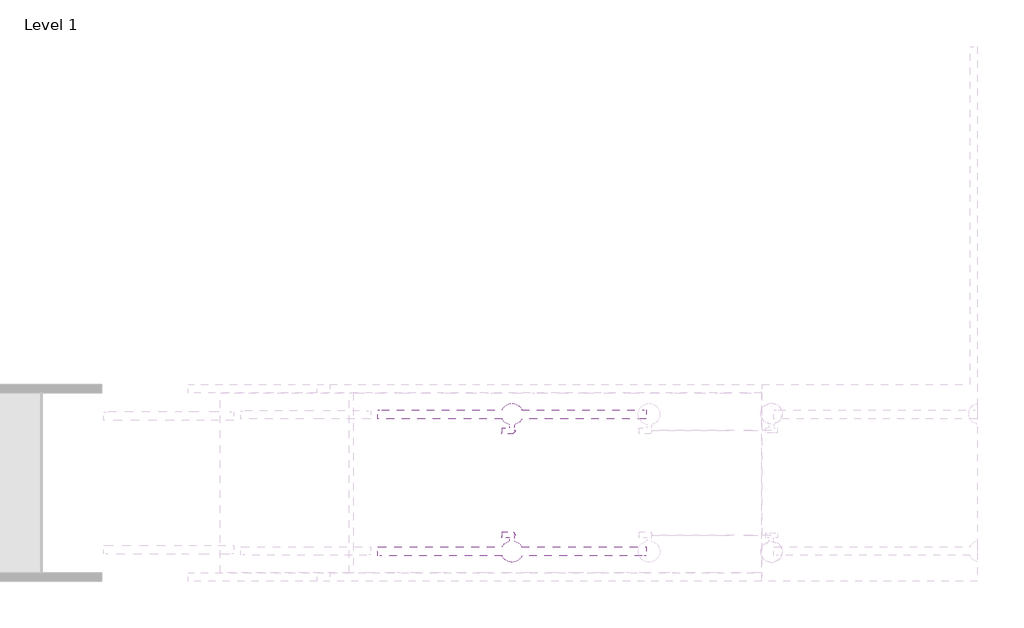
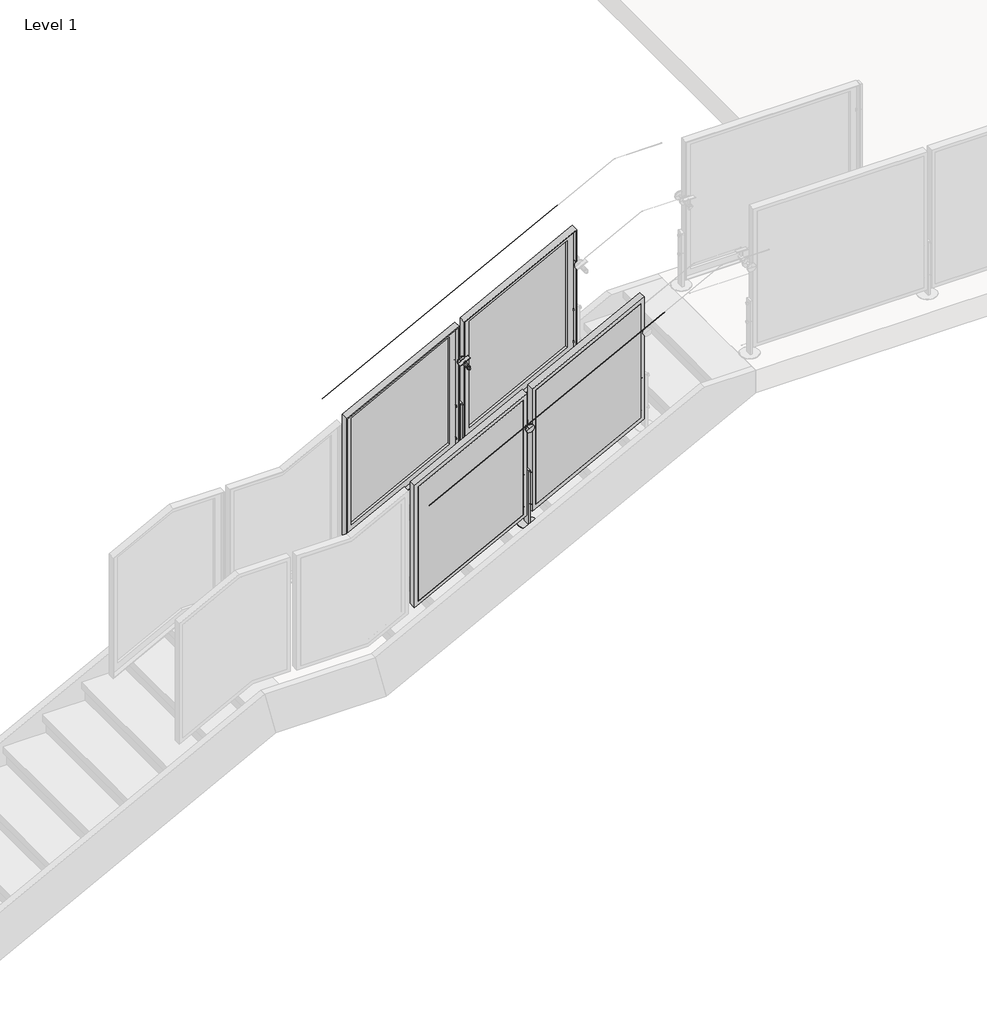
# One storey, part 33 of 37: 2 railings.
"""IFC4 building model written with IfcOpenShell, lengths in millimetres."""

from ifc_helpers import new_model, si_unit, point, frame, frame_2d, origin, place, context, project, spatial, polyline, circle_curve, ellipse_curve, trimmed, segment, composite_curve, outline, extrude, faceted_brep, element, save
from ifc_brep_helpers import plane_surface, cylinder_surface, advanced_brep

model = new_model("IFC4")

# Units and contexts
model_context = context("Model", 3, world=origin())
ifc_project = project(units=[si_unit("LENGTHUNIT", "METRE", prefix="MILLI")], contexts=[model_context])

# Site, building, storey
site = spatial("IfcSite", under=ifc_project)
building = spatial("IfcBuilding", under=site)
storey = spatial("IfcBuildingStorey", under=building, Name="Level 1", Elevation=0.0)

# Railings
placement = place(None, origin())
element("IfcRailing", 1, ObjectType="Metal-Panel-VIVA-FRAME-Top_Core-Stairs-Upper", at=placement, inside=storey, context=model_context, shape_type="SolidModel", body=[
    advanced_brep(
    [(-9833.8159088, 8263.5937722, 2893.6354769), (-9833.8159088, 8264.5937722, 2893.6354769), (-8157.4159088, 8263.5937722, 3764.4926197), (-8157.4159088, 8264.5937722, 3764.4926197)],
    [
        (0, 1, ellipse_curve(frame((-9833.8159088, 8264.0937722, 2893.6354769), z_axis=(-1.0, 0.0, 0.0), x_axis=(0.0, 0.0, -0.9999999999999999)), 0.5634403, 0.5)),
        (1, 0, ellipse_curve(frame((-9833.8159088, 8264.0937722, 2893.6354769), z_axis=(-1.0, 0.0, 0.0), x_axis=(0.0, 0.0, -0.9999999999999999)), 0.5634403, 0.5)),
        (2, 3, ellipse_curve(frame((-8157.4159088, 8264.0937722, 3764.4926197), z_axis=(1.0, 0.0, 0.0), x_axis=(0.0, 0.0, -0.9999999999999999)), 0.5634403, 0.5)),
        (3, 2, ellipse_curve(frame((-8157.4159088, 8264.0937722, 3764.4926197), z_axis=(1.0, 0.0, 0.0), x_axis=(0.0, 0.0, -0.9999999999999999)), 0.5634403, 0.5)),
        (0, 2),
        (3, 1),
    ],
    [
        plane_surface(frame((-9833.8159088, 8264.0937722, 2894.1989172), z_axis=(-1.0, 0.0, 0.0), x_axis=(0.0, 1.0, 0.0))),
        plane_surface(frame((-8157.4159088, 8264.0937722, 3765.0560601), z_axis=(1.0, 0.0, 0.0), x_axis=(0.0, 1.0, 0.0))),
        cylinder_surface(frame((-9833.5854139, 8264.0937722, 2893.7552145), z_axis=(-0.8874054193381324, 0.0, -0.4609898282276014), x_axis=(0.0, 1.0, 0.0)), 0.5),
    ],
    [
        (0, [[1, 2]]),
        (1, [[3, 4]]),
        (2, [[-1, 5, -4, 6]]),
        (2, [[-2, -6, -3, -5]]),
    ],
),
    extrude(outline(polyline([(3321.6485005, -8951.1699519), (2460.8755486, -8951.1699519), (2850.1265024, -8201.8618657), (3710.8994544, -8201.8618657), (3321.6485005, -8951.1699519)])), frame((0.0, 8481.9705722, 0.0), z_axis=(0.0, 1.0, 0.0), x_axis=(0.0, 0.0, 1.0)), (0.0, 0.0, 1.0), 3.0),
    faceted_brep([(-8976.5699519, 8481.9705722, 3337.076464), (-8976.5699519, 8481.9705722, 2419.0579747), (-8176.4618657, 8481.9705722, 2834.6985389), (-8176.4618657, 8481.9705722, 3752.7170282), (-8951.1699519, 8481.9705722, 3321.6485005), (-8201.8618657, 8481.9705722, 3710.8994544), (-8201.8618657, 8481.9705722, 2850.1265024), (-8951.1699519, 8481.9705722, 2460.8755486), (-8201.8618657, 8484.9705722, 2850.1265024), (-8951.1699519, 8484.9705722, 2460.8755486), (-8201.8618657, 8484.9705722, 3710.8994544), (-8951.1699519, 8484.9705722, 3321.6485005), (-8970.5755519, 8535.7705722, 2428.9269221), (-8970.5755519, 8504.9603722, 2428.9269221), (-8182.4562657, 8504.9603722, 2838.3395383), (-8182.4562657, 8535.7705722, 2838.3395383), (-8182.4562657, 8504.9603722, 3742.8480808), (-8182.4562657, 8535.7705722, 3742.8480808), (-8970.5755519, 8535.7705722, 3333.4354646), (-8970.5755519, 8504.9603722, 3333.4354646), (-8176.4618657, 8535.7705722, 2834.6985389), (-8976.5699519, 8535.7705722, 2419.0579747), (-8976.5699519, 8535.7705722, 3337.076464), (-8176.4618657, 8535.7705722, 3752.7170282), (-8925.7699519, 8484.9705722, 3306.2205371), (-8227.2618657, 8484.9705722, 3669.0818805), (-8227.2618657, 8484.9705722, 2865.5544658), (-8925.7699519, 8484.9705722, 2502.6931224), (-8227.2618657, 8504.9603722, 2865.5544658), (-8227.2618657, 8504.9603722, 3669.0818805), (-8925.7699519, 8504.9603722, 3306.2205371), (-8925.7699519, 8504.9603722, 2502.6931224)], [[[0, 1, 2, 3], [4, 5, 6, 7]], [[7, 6, 8, 9]], [[6, 5, 10, 8]], [[5, 4, 11, 10]], [[4, 7, 9, 11]], [[12, 13, 14, 15]], [[15, 14, 16, 17]], [[13, 12, 18, 19]], [[20, 21, 22, 23], [12, 15, 17, 18]], [[21, 1, 0, 22]], [[21, 20, 2, 1]], [[2, 20, 23, 3]], [[22, 0, 3, 23]], [[11, 9, 8, 10], [24, 25, 26, 27]], [[14, 13, 19, 16], [28, 29, 30, 31]], [[19, 18, 17, 16]], [[25, 24, 30, 29]], [[26, 25, 29, 28]], [[27, 26, 28, 31]], [[24, 27, 31, 30]]]),
    extrude(outline(composite_curve([segment(polyline([(2.99974, 1e-07), (0.0, 0.0)]), True, "CONTINUOUS"), segment(trimmed(circle_curve(frame_2d((-19.0451471, 0.0)), 19.0451471), [point((0.0, 0.0))], [point((-23.6280664, 18.4855208))], True, "CARTESIAN"), True, "CONTINUOUS"), segment(polyline([(-23.6280664, 18.4855208), (-24.3499073, 21.397116)]), True, "CONTINUOUS"), segment(trimmed(circle_curve(frame_2d((-19.0451471, 0.0)), 22.0448871), [point((-24.3499073, 21.397116))], [point((2.99974, 1e-07))], False, "CARTESIAN"), True, "CONTINUOUS")], self_intersect=False)), frame((-9058.1036193, 8593.9719722, 3087.9792855), z_axis=(0.8874054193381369, 0.0, 0.4609898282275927), x_axis=(0.2840545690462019, -0.7876022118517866, -0.5468050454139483)), (0.0, 0.0, 1.0), 79.1184357),
    advanced_brep(
    [(-8983.2187312, 8608.9719722, 3029.6395217), (-8983.2187312, 8601.8282222, 3029.6395217), (-8983.2187312, 8616.1157222, 3029.6395217), (-9019.0779774, 8601.8282222, 3098.6685708), (-9019.0779774, 8608.9719722, 3098.6685708), (-9019.0779774, 8616.1157222, 3098.6685708)],
    [
        (0, 1),
        (1, 2, circle_curve(frame((-8983.2187312, 8608.9719722, 3029.6395217), z_axis=(0.4609898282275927, 0.0, -0.887405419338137), x_axis=(0.0, 1.0, 0.0)), 7.14375)),
        (2, 0),
        (3, 4),
        (4, 5),
        (5, 3, circle_curve(frame((-9019.0779774, 8608.9719722, 3098.6685708), z_axis=(-0.4609898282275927, 0.0, 0.887405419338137), x_axis=(0.0, 1.0, 0.0)), 7.14375)),
        (2, 1, circle_curve(frame((-8983.2187312, 8608.9719722, 3029.6395217), z_axis=(0.4609898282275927, 0.0, -0.887405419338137), x_axis=(0.0, 1.0, 0.0)), 7.14375)),
        (3, 5, circle_curve(frame((-9019.0779774, 8608.9719722, 3098.6685708), z_axis=(-0.4609898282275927, 0.0, 0.887405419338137), x_axis=(0.0, 1.0, 0.0)), 7.14375)),
        (1, 3),
        (5, 2),
    ],
    [
        plane_surface(frame((-8983.2187312, 8608.9719722, 3029.6395217), z_axis=(0.4609898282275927, 0.0, -0.887405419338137), x_axis=(0.0, 1.0, 0.0))),
        plane_surface(frame((-9019.0779774, 8608.9719722, 3098.6685708), z_axis=(-0.4609898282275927, 0.0, 0.887405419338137), x_axis=(0.0, 1.0, 0.0))),
        cylinder_surface(frame((-8866.2645313, 8608.9719722, 2804.502687), z_axis=(0.4609898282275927, 0.0, -0.887405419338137), x_axis=(0.0, 1.0, 0.0)), 7.14375),
    ],
    [
        (0, [[1, 2, 3]]),
        (1, [[4, 5, 6]]),
        (0, [[-3, 7, -1]]),
        (1, [[-5, -4, 8]]),
        (2, [[9, -6, 10, -2]]),
        (2, [[-10, -8, -9, -7]]),
    ],
),
    advanced_brep(
    [(-9022.3822748, 8481.9719722, 3039.5994829), (-9001.2509332, 8481.9719722, 3050.5768032), (-8989.9808844, 8481.9719722, 3056.431374), (-8968.8495428, 8481.9719722, 3067.4086943), (-9022.3822748, 8474.0344722, 3039.5994829), (-8968.8495428, 8474.0344722, 3067.4086943), (-9022.3822748, 8540.7094722, 3039.5994829), (-9006.8859576, 8540.7094722, 3047.6495178), (-8984.34586, 8540.7094722, 3059.3586595), (-8968.8495428, 8540.7094722, 3067.4086943), (-9022.3822748, 8532.7719722, 3039.5994829), (-8968.8495428, 8532.7719722, 3067.4086943), (-8995.6159088, 8474.0344722, 3053.5040886), (-9006.8859576, 8620.0844722, 3047.6495178), (-8995.6159088, 8620.0844722, 3053.5040886), (-8984.34586, 8620.0844722, 3059.3586595), (-9001.2509332, 8532.7719722, 3050.5768032), (-8989.9808844, 8532.7719722, 3056.431374)],
    [
        (0, 1),
        (1, 2, circle_curve(frame((-8995.6159088, 8481.9719722, 3053.5040886), z_axis=(0.0, -1.0, 0.0), x_axis=(0.8874054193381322, 0.0, 0.4609898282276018)), 6.35)),
        (2, 3),
        (3, 0, circle_curve(frame((-8995.6159088, 8481.9719722, 3053.5040886), z_axis=(0.0, 1.0, 0.0), x_axis=(0.8874054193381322, 0.0, 0.4609898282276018)), 30.1625)),
        (4, 0),
        (3, 5),
        (5, 4, circle_curve(frame((-8995.6159088, 8474.0344722, 3053.5040886), z_axis=(0.0, 1.0, 0.0), x_axis=(0.8874054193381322, 0.0, 0.4609898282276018)), 30.1625)),
        (6, 7),
        (7, 8, circle_curve(frame((-8995.6159088, 8540.7094722, 3053.5040886), z_axis=(0.0, -1.0, 0.0), x_axis=(0.8874054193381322, 0.0, 0.4609898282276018)), 12.7)),
        (8, 9),
        (9, 6, circle_curve(frame((-8995.6159088, 8540.7094722, 3053.5040886), z_axis=(0.0, 1.0, 0.0), x_axis=(0.8874054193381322, 0.0, 0.4609898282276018)), 30.1625)),
        (10, 6),
        (9, 11),
        (11, 10, circle_curve(frame((-8995.6159088, 8532.7719722, 3053.5040886), z_axis=(0.0, 1.0, 0.0), x_axis=(0.8874054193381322, 0.0, 0.4609898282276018)), 30.1625)),
        (3, 0, circle_curve(frame((-8995.6159088, 8481.9719722, 3053.5040886), z_axis=(0.0, -1.0, 0.0), x_axis=(0.8874054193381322, 0.0, 0.4609898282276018)), 30.1625)),
        (4, 5, circle_curve(frame((-8995.6159088, 8474.0344722, 3053.5040886), z_axis=(0.0, 1.0, 0.0), x_axis=(0.8874054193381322, 0.0, 0.4609898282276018)), 30.1625)),
        (12, 4),
        (5, 12),
        (13, 14),
        (14, 15),
        (15, 13, circle_curve(frame((-8995.6159088, 8620.0844722, 3053.5040886), z_axis=(0.0, 1.0, 0.0), x_axis=(0.8874054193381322, 0.0, 0.4609898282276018)), 12.7)),
        (13, 15, circle_curve(frame((-8995.6159088, 8620.0844722, 3053.5040886), z_axis=(0.0, 1.0, 0.0), x_axis=(0.8874054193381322, 0.0, 0.4609898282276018)), 12.7)),
        (7, 13),
        (15, 8),
        (7, 8, circle_curve(frame((-8995.6159088, 8540.7094722, 3053.5040886), z_axis=(0.0, 1.0, 0.0), x_axis=(0.8874054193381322, 0.0, 0.4609898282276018)), 12.7)),
        (6, 9, circle_curve(frame((-8995.6159088, 8540.7094722, 3053.5040886), z_axis=(0.0, 1.0, 0.0), x_axis=(0.8874054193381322, 0.0, 0.4609898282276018)), 30.1625)),
        (10, 11, circle_curve(frame((-8995.6159088, 8532.7719722, 3053.5040886), z_axis=(0.0, 1.0, 0.0), x_axis=(0.8874054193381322, 0.0, 0.4609898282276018)), 30.1625)),
        (16, 10),
        (11, 17),
        (17, 16, circle_curve(frame((-8995.6159088, 8532.7719722, 3053.5040886), z_axis=(0.0, 1.0, 0.0), x_axis=(0.8874054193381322, 0.0, 0.4609898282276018)), 6.35)),
        (16, 17, circle_curve(frame((-8995.6159088, 8532.7719722, 3053.5040886), z_axis=(0.0, 1.0, 0.0), x_axis=(0.8874054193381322, 0.0, 0.4609898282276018)), 6.35)),
        (1, 16),
        (17, 2),
        (1, 2, circle_curve(frame((-8995.6159088, 8481.9719722, 3053.5040886), z_axis=(0.0, 1.0, 0.0), x_axis=(0.8874054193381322, 0.0, 0.4609898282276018)), 6.35)),
    ],
    [
        plane_surface(frame((-8995.6159088, 8481.9719722, 3053.5040886), z_axis=(0.0, 1.0, 0.0), x_axis=(0.8874054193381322, 0.0, 0.4609898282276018))),
        cylinder_surface(frame((-8995.6159088, 7008.7719722, 3053.5040886), z_axis=(0.0, -1.0, 0.0), x_axis=(0.8874054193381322, 0.0, 0.4609898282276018)), 30.1625),
        plane_surface(frame((-8995.6159088, 8540.7094722, 3053.5040886), z_axis=(0.0, 1.0, 0.0), x_axis=(0.8874054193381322, 0.0, 0.4609898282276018))),
        plane_surface(frame((-8995.6159088, 8474.0344722, 3053.5040886), z_axis=(0.0, -1.0, 0.0), x_axis=(0.8874054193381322, 0.0, 0.4609898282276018))),
        plane_surface(frame((-8995.6159088, 8620.0844722, 3053.5040886), z_axis=(0.0, 1.0, 0.0), x_axis=(0.8874054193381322, 0.0, 0.4609898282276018))),
        cylinder_surface(frame((-8995.6159088, 7008.7719722, 3053.5040886), z_axis=(0.0, -1.0, 0.0), x_axis=(0.8874054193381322, 0.0, 0.4609898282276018)), 12.7),
        plane_surface(frame((-8995.6159088, 8532.7719722, 3053.5040886), z_axis=(0.0, -1.0, 0.0), x_axis=(0.8874054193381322, 0.0, 0.4609898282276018))),
        cylinder_surface(frame((-8995.6159088, 7008.7719722, 3053.5040886), z_axis=(0.0, -1.0, 0.0), x_axis=(0.8874054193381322, 0.0, 0.4609898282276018)), 6.35),
    ],
    [
        (0, [[1, 2, 3, 4]]),
        (1, [[5, -4, 6, 7]]),
        (2, [[8, 9, 10, 11]]),
        (1, [[12, -11, 13, 14]]),
        (1, [[-6, 15, -5, 16]]),
        (3, [[17, -7, 18]]),
        (3, [[-18, -16, -17]]),
        (4, [[19, 20, 21]]),
        (4, [[-20, -19, 22]]),
        (5, [[23, -21, 24, -9]]),
        (5, [[-24, -22, -23, 25]]),
        (2, [[-10, -25, -8, 26]]),
        (1, [[-13, -26, -12, 27]]),
        (6, [[28, -14, 29, 30]]),
        (6, [[-29, -27, -28, 31]]),
        (7, [[32, -30, 33, -2]]),
        (7, [[-33, -31, -32, 34]]),
        (0, [[-3, -34, -1, -15]]),
    ],
),
    extrude(outline(composite_curve([segment(trimmed(circle_curve(frame_2d((-8995.6159088, 8507.3719722)), 65.8876), [point((-8995.6159088, 8441.4843722))], [point((-8995.6159088, 8573.2595722))], False, "CARTESIAN"), True, "CONTINUOUS"), segment(trimmed(circle_curve(frame_2d((-8995.6159088, 8507.3719722)), 65.8876), [point((-8995.6159088, 8573.2595722))], [point((-8995.6159088, 8441.4843722))], False, "CARTESIAN"), True, "CONTINUOUS")], self_intersect=False)), frame((0.0, 0.0, 2322.2857143), z_axis=(0.0, 0.0, 1.0), x_axis=(1.0, 0.0, 0.0)), (0.0, 0.0, 1.0), 2.9821299),
    advanced_brep(
    [(-9021.8033088, 8507.3719722, 2452.4353143), (-9021.8033088, 8507.3719722, 2471.5361143), (-9021.8033088, 8507.3719722, 2461.9857143), (-9017.0281088, 8507.3719722, 2452.4353143), (-9017.0281088, 8507.3719722, 2471.5361143), (-9017.0281088, 8507.3719722, 2457.2105143), (-9017.0281088, 8507.3719722, 2466.7609143), (-8974.2037088, 8507.3719722, 2457.2105143), (-8974.2037088, 8507.3719722, 2466.7609143), (-8974.2037088, 8507.3719722, 2452.4353143), (-8974.2037088, 8507.3719722, 2471.5361143), (-8969.4285088, 8507.3719722, 2452.4353143), (-8969.4285088, 8507.3719722, 2471.5361143), (-8969.4285088, 8507.3719722, 2461.9857143)],
    [
        (0, 1, circle_curve(frame((-9021.8033088, 8507.3719722, 2461.9857143), z_axis=(-1.0, 0.0, 0.0), x_axis=(0.0, 0.0, 1.0)), 9.5504)),
        (1, 2),
        (2, 0),
        (1, 0, circle_curve(frame((-9021.8033088, 8507.3719722, 2461.9857143), z_axis=(-1.0, 0.0, 0.0), x_axis=(0.0, 0.0, 1.0)), 9.5504)),
        (3, 4, circle_curve(frame((-9017.0281088, 8507.3719722, 2461.9857143), z_axis=(-1.0, 0.0, 0.0), x_axis=(0.0, 0.0, 1.0)), 9.5504)),
        (4, 1),
        (0, 3),
        (4, 3, circle_curve(frame((-9017.0281088, 8507.3719722, 2461.9857143), z_axis=(-1.0, 0.0, 0.0), x_axis=(0.0, 0.0, 1.0)), 9.5504)),
        (5, 6, circle_curve(frame((-9017.0281088, 8507.3719722, 2461.9857143), z_axis=(-1.0, 0.0, 0.0), x_axis=(0.0, 0.0, 1.0)), 4.7752)),
        (6, 4),
        (3, 5),
        (6, 5, circle_curve(frame((-9017.0281088, 8507.3719722, 2461.9857143), z_axis=(-1.0, 0.0, 0.0), x_axis=(0.0, 0.0, 1.0)), 4.7752)),
        (7, 8, circle_curve(frame((-8974.2037088, 8507.3719722, 2461.9857143), z_axis=(-1.0, 0.0, 0.0), x_axis=(0.0, 0.0, 1.0)), 4.7752)),
        (8, 6),
        (5, 7),
        (8, 7, circle_curve(frame((-8974.2037088, 8507.3719722, 2461.9857143), z_axis=(-1.0, 0.0, 0.0), x_axis=(0.0, 0.0, 1.0)), 4.7752)),
        (9, 10, circle_curve(frame((-8974.2037088, 8507.3719722, 2461.9857143), z_axis=(-1.0, 0.0, 0.0), x_axis=(0.0, 0.0, 1.0)), 9.5504)),
        (10, 8),
        (7, 9),
        (10, 9, circle_curve(frame((-8974.2037088, 8507.3719722, 2461.9857143), z_axis=(-1.0, 0.0, 0.0), x_axis=(0.0, 0.0, 1.0)), 9.5504)),
        (11, 12, circle_curve(frame((-8969.4285088, 8507.3719722, 2461.9857143), z_axis=(-1.0, 0.0, 0.0), x_axis=(0.0, 0.0, 1.0)), 9.5504)),
        (12, 10),
        (9, 11),
        (12, 11, circle_curve(frame((-8969.4285088, 8507.3719722, 2461.9857143), z_axis=(-1.0, 0.0, 0.0), x_axis=(0.0, 0.0, 1.0)), 9.5504)),
        (13, 12),
        (11, 13),
    ],
    [
        plane_surface(frame((-9021.8033088, 8507.3719722, 2461.9857143), z_axis=(-1.0, 0.0, 0.0), x_axis=(0.0, 0.0, 1.0))),
        cylinder_surface(frame((-12413.3836659, 8507.3719722, 2461.9857143), z_axis=(1.0, 0.0, 0.0), x_axis=(0.0, 0.0, 1.0)), 9.5504),
        plane_surface(frame((-9017.0281088, 8507.3719722, 2461.9857143), z_axis=(1.0, 0.0, 0.0), x_axis=(0.0, 0.0, 1.0))),
        cylinder_surface(frame((-12413.3836659, 8507.3719722, 2461.9857143), z_axis=(1.0, 0.0, 0.0), x_axis=(0.0, 0.0, 1.0)), 4.7752),
        plane_surface(frame((-8974.2037088, 8507.3719722, 2461.9857143), z_axis=(-1.0, 0.0, 0.0), x_axis=(0.0, 0.0, 1.0))),
        plane_surface(frame((-8969.4285088, 8507.3719722, 2461.9857143), z_axis=(1.0, 0.0, 0.0), x_axis=(0.0, 0.0, 1.0))),
    ],
    [
        (0, [[1, 2, 3]]),
        (0, [[4, -3, -2]]),
        (1, [[5, 6, -1, 7]]),
        (1, [[8, -7, -4, -6]]),
        (2, [[9, 10, -5, 11]]),
        (2, [[12, -11, -8, -10]]),
        (3, [[13, 14, -9, 15]]),
        (3, [[16, -15, -12, -14]]),
        (4, [[17, 18, -13, 19]]),
        (4, [[20, -19, -16, -18]]),
        (1, [[21, 22, -17, 23]]),
        (1, [[24, -23, -20, -22]]),
        (5, [[25, -21, 26]]),
        (5, [[-26, -24, -25]]),
    ],
),
    advanced_brep(
    [(-9021.8033088, 8507.3719722, 2693.7353143), (-9021.8033088, 8507.3719722, 2712.8361143), (-9021.8033088, 8507.3719722, 2703.2857143), (-9017.0281088, 8507.3719722, 2693.7353143), (-9017.0281088, 8507.3719722, 2712.8361143), (-9017.0281088, 8507.3719722, 2698.5105143), (-9017.0281088, 8507.3719722, 2708.0609143), (-8974.2037088, 8507.3719722, 2698.5105143), (-8974.2037088, 8507.3719722, 2708.0609143), (-8974.2037088, 8507.3719722, 2693.7353143), (-8974.2037088, 8507.3719722, 2712.8361143), (-8969.4285088, 8507.3719722, 2693.7353143), (-8969.4285088, 8507.3719722, 2712.8361143), (-8969.4285088, 8507.3719722, 2703.2857143)],
    [
        (0, 1, circle_curve(frame((-9021.8033088, 8507.3719722, 2703.2857143), z_axis=(-1.0, 0.0, 0.0), x_axis=(0.0, 0.0, 1.0)), 9.5504)),
        (1, 2),
        (2, 0),
        (1, 0, circle_curve(frame((-9021.8033088, 8507.3719722, 2703.2857143), z_axis=(-1.0, 0.0, 0.0), x_axis=(0.0, 0.0, 1.0)), 9.5504)),
        (3, 4, circle_curve(frame((-9017.0281088, 8507.3719722, 2703.2857143), z_axis=(-1.0, 0.0, 0.0), x_axis=(0.0, 0.0, 1.0)), 9.5504)),
        (4, 1),
        (0, 3),
        (4, 3, circle_curve(frame((-9017.0281088, 8507.3719722, 2703.2857143), z_axis=(-1.0, 0.0, 0.0), x_axis=(0.0, 0.0, 1.0)), 9.5504)),
        (5, 6, circle_curve(frame((-9017.0281088, 8507.3719722, 2703.2857143), z_axis=(-1.0, 0.0, 0.0), x_axis=(0.0, 0.0, 1.0)), 4.7752)),
        (6, 4),
        (3, 5),
        (6, 5, circle_curve(frame((-9017.0281088, 8507.3719722, 2703.2857143), z_axis=(-1.0, 0.0, 0.0), x_axis=(0.0, 0.0, 1.0)), 4.7752)),
        (7, 8, circle_curve(frame((-8974.2037088, 8507.3719722, 2703.2857143), z_axis=(-1.0, 0.0, 0.0), x_axis=(0.0, 0.0, 1.0)), 4.7752)),
        (8, 6),
        (5, 7),
        (8, 7, circle_curve(frame((-8974.2037088, 8507.3719722, 2703.2857143), z_axis=(-1.0, 0.0, 0.0), x_axis=(0.0, 0.0, 1.0)), 4.7752)),
        (9, 10, circle_curve(frame((-8974.2037088, 8507.3719722, 2703.2857143), z_axis=(-1.0, 0.0, 0.0), x_axis=(0.0, 0.0, 1.0)), 9.5504)),
        (10, 8),
        (7, 9),
        (10, 9, circle_curve(frame((-8974.2037088, 8507.3719722, 2703.2857143), z_axis=(-1.0, 0.0, 0.0), x_axis=(0.0, 0.0, 1.0)), 9.5504)),
        (11, 12, circle_curve(frame((-8969.4285088, 8507.3719722, 2703.2857143), z_axis=(-1.0, 0.0, 0.0), x_axis=(0.0, 0.0, 1.0)), 9.5504)),
        (12, 10),
        (9, 11),
        (12, 11, circle_curve(frame((-8969.4285088, 8507.3719722, 2703.2857143), z_axis=(-1.0, 0.0, 0.0), x_axis=(0.0, 0.0, 1.0)), 9.5504)),
        (13, 12),
        (11, 13),
    ],
    [
        plane_surface(frame((-9021.8033088, 8507.3719722, 2703.2857143), z_axis=(-1.0, 0.0, 0.0), x_axis=(0.0, 0.0, 1.0))),
        cylinder_surface(frame((-12413.3836659, 8507.3719722, 2703.2857143), z_axis=(1.0, 0.0, 0.0), x_axis=(0.0, 0.0, 1.0)), 9.5504),
        plane_surface(frame((-9017.0281088, 8507.3719722, 2703.2857143), z_axis=(1.0, 0.0, 0.0), x_axis=(0.0, 0.0, 1.0))),
        cylinder_surface(frame((-12413.3836659, 8507.3719722, 2703.2857143), z_axis=(1.0, 0.0, 0.0), x_axis=(0.0, 0.0, 1.0)), 4.7752),
        plane_surface(frame((-8974.2037088, 8507.3719722, 2703.2857143), z_axis=(-1.0, 0.0, 0.0), x_axis=(0.0, 0.0, 1.0))),
        plane_surface(frame((-8969.4285088, 8507.3719722, 2703.2857143), z_axis=(1.0, 0.0, 0.0), x_axis=(0.0, 0.0, 1.0))),
    ],
    [
        (0, [[1, 2, 3]]),
        (0, [[4, -3, -2]]),
        (1, [[5, 6, -1, 7]]),
        (1, [[8, -7, -4, -6]]),
        (2, [[9, 10, -5, 11]]),
        (2, [[12, -11, -8, -10]]),
        (3, [[13, 14, -9, 15]]),
        (3, [[16, -15, -12, -14]]),
        (4, [[17, 18, -13, 19]]),
        (4, [[20, -19, -16, -18]]),
        (1, [[21, 22, -17, 23]]),
        (1, [[24, -23, -20, -22]]),
        (5, [[25, -21, 26]]),
        (5, [[-26, -24, -25]]),
    ],
),
    extrude(outline(polyline([(-9003.5555004, 8529.5969722), (-8987.6763171, 8529.5969722), (-8987.6763171, 8485.1469722), (-9003.5555004, 8485.1469722), (-9003.5555004, 8529.5969722)])), frame((0.0, 0.0, 2220.6857143), z_axis=(0.0, 0.0, 1.0), x_axis=(1.0, 0.0, 0.0)), (0.0, 0.0, 1.0), 508.0),
    extrude(outline(polyline([(2886.2199291, -9789.3699519), (2025.4469771, -9789.3699519), (2414.697931, -9040.0618657), (3275.4708829, -9040.0618657), (2886.2199291, -9789.3699519)])), frame((0.0, 8481.9705722, 0.0), z_axis=(0.0, 1.0, 0.0), x_axis=(0.0, 0.0, 1.0)), (0.0, 0.0, 1.0), 3.0),
    faceted_brep([(-9814.7699519, 8481.9705722, 2901.6478925), (-9814.7699519, 8481.9705722, 1983.6294033), (-9014.6618657, 8481.9705722, 2399.2699675), (-9014.6618657, 8481.9705722, 3317.2884568), (-9789.3699519, 8481.9705722, 2886.2199291), (-9040.0618657, 8481.9705722, 3275.4708829), (-9040.0618657, 8481.9705722, 2414.697931), (-9789.3699519, 8481.9705722, 2025.4469771), (-9040.0618657, 8484.9705722, 2414.697931), (-9789.3699519, 8484.9705722, 2025.4469771), (-9040.0618657, 8484.9705722, 3275.4708829), (-9789.3699519, 8484.9705722, 2886.2199291), (-9808.7755519, 8535.7705722, 1993.4983507), (-9808.7755519, 8504.9603722, 1993.4983507), (-9020.6562657, 8504.9603722, 2402.9109669), (-9020.6562657, 8535.7705722, 2402.9109669), (-9020.6562657, 8504.9603722, 3307.4195093), (-9020.6562657, 8535.7705722, 3307.4195093), (-9808.7755519, 8535.7705722, 2898.0068932), (-9808.7755519, 8504.9603722, 2898.0068932), (-9014.6618657, 8535.7705722, 2399.2699675), (-9814.7699519, 8535.7705722, 1983.6294033), (-9814.7699519, 8535.7705722, 2901.6478925), (-9014.6618657, 8535.7705722, 3317.2884568), (-9763.9699519, 8484.9705722, 2870.7919657), (-9065.4618657, 8484.9705722, 3233.6533091), (-9065.4618657, 8484.9705722, 2430.1258944), (-9763.9699519, 8484.9705722, 2067.264551), (-9065.4618657, 8504.9603722, 2430.1258944), (-9065.4618657, 8504.9603722, 3233.6533091), (-9763.9699519, 8504.9603722, 2870.7919657), (-9763.9699519, 8504.9603722, 2067.264551)], [[[0, 1, 2, 3], [4, 5, 6, 7]], [[7, 6, 8, 9]], [[6, 5, 10, 8]], [[5, 4, 11, 10]], [[4, 7, 9, 11]], [[12, 13, 14, 15]], [[15, 14, 16, 17]], [[13, 12, 18, 19]], [[20, 21, 22, 23], [12, 15, 17, 18]], [[21, 1, 0, 22]], [[21, 20, 2, 1]], [[2, 20, 23, 3]], [[22, 0, 3, 23]], [[11, 9, 8, 10], [24, 25, 26, 27]], [[14, 13, 19, 16], [28, 29, 30, 31]], [[19, 18, 17, 16]], [[25, 24, 30, 29]], [[26, 25, 29, 28]], [[27, 26, 28, 31]], [[24, 27, 31, 30]]]),
])
element("IfcRailing", 2, ObjectType="Metal-Panel-VIVA-FRAME-Top_Core-Stairs-Upper", at=placement, inside=storey, context=model_context, shape_type="SolidModel", body=[
    advanced_brep(
    [(-9833.8159088, 9587.7913722, 2893.6354769), (-9833.8159088, 9588.7913722, 2893.6354769), (-8157.4159088, 9587.7913722, 3764.4926197), (-8157.4159088, 9588.7913722, 3764.4926197)],
    [
        (0, 1, ellipse_curve(frame((-9833.8159088, 9588.2913722, 2893.6354769), z_axis=(-1.0, 0.0, 0.0), x_axis=(0.0, 0.0, -1.0)), 0.5634403, 0.5)),
        (1, 0, ellipse_curve(frame((-9833.8159088, 9588.2913722, 2893.6354769), z_axis=(-1.0, 0.0, 0.0), x_axis=(0.0, 0.0, -1.0)), 0.5634403, 0.5)),
        (2, 3, ellipse_curve(frame((-8157.4159088, 9588.2913722, 3764.4926197), z_axis=(1.0, 0.0, 0.0), x_axis=(0.0, 0.0, -1.0)), 0.5634403, 0.5)),
        (3, 2, ellipse_curve(frame((-8157.4159088, 9588.2913722, 3764.4926197), z_axis=(1.0, 0.0, 0.0), x_axis=(0.0, 0.0, -1.0)), 0.5634403, 0.5)),
        (0, 2),
        (3, 1),
    ],
    [
        plane_surface(frame((-9833.8159088, 9588.2913722, 2894.1989172), z_axis=(-1.0, 0.0, 0.0), x_axis=(0.0, 1.0, 0.0))),
        plane_surface(frame((-8157.4159088, 9588.2913722, 3765.0560601), z_axis=(1.0, 0.0, 0.0), x_axis=(0.0, 1.0, 0.0))),
        cylinder_surface(frame((-9833.5854139, 9588.2913722, 2893.7552145), z_axis=(-0.8874054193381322, 0.0, -0.4609898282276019), x_axis=(0.0, 1.0, 0.0)), 0.5),
    ],
    [
        (0, [[1, 2]]),
        (1, [[3, 4]]),
        (2, [[-1, 5, -4, 6]]),
        (2, [[-2, -6, -3, -5]]),
    ],
),
    extrude(outline(polyline([(2460.8755486, -8951.1699519), (2850.1265024, -8201.8618657), (3710.8994544, -8201.8618657), (3321.6485005, -8951.1699519), (2460.8755486, -8951.1699519)])), frame((0.0, 9367.4145722, 0.0), z_axis=(0.0, 1.0, 0.0), x_axis=(0.0, 0.0, 1.0)), (0.0, 0.0, 1.0), 3.0),
    faceted_brep([(-8976.5699519, 9370.4145722, 3337.076464), (-8176.4618657, 9370.4145722, 3752.7170282), (-8176.4618657, 9370.4145722, 2834.6985389), (-8976.5699519, 9370.4145722, 2419.0579747), (-8951.1699519, 9370.4145722, 3321.6485005), (-8951.1699519, 9370.4145722, 2460.8755486), (-8201.8618657, 9370.4145722, 2850.1265024), (-8201.8618657, 9370.4145722, 3710.8994544), (-8951.1699519, 9367.4145722, 2460.8755486), (-8201.8618657, 9367.4145722, 2850.1265024), (-8201.8618657, 9367.4145722, 3710.8994544), (-8951.1699519, 9367.4145722, 3321.6485005), (-8970.5755519, 9316.6145722, 2428.9269221), (-8182.4562657, 9316.6145722, 2838.3395383), (-8182.4562657, 9347.4247722, 2838.3395383), (-8970.5755519, 9347.4247722, 2428.9269221), (-8182.4562657, 9316.6145722, 3742.8480808), (-8182.4562657, 9347.4247722, 3742.8480808), (-8970.5755519, 9347.4247722, 3333.4354646), (-8970.5755519, 9316.6145722, 3333.4354646), (-8176.4618657, 9316.6145722, 2834.6985389), (-8176.4618657, 9316.6145722, 3752.7170282), (-8976.5699519, 9316.6145722, 3337.076464), (-8976.5699519, 9316.6145722, 2419.0579747), (-8925.7699519, 9367.4145722, 3306.2205371), (-8925.7699519, 9367.4145722, 2502.6931224), (-8227.2618657, 9367.4145722, 2865.5544658), (-8227.2618657, 9367.4145722, 3669.0818805), (-8227.2618657, 9347.4247722, 2865.5544658), (-8925.7699519, 9347.4247722, 2502.6931224), (-8925.7699519, 9347.4247722, 3306.2205371), (-8227.2618657, 9347.4247722, 3669.0818805)], [[[0, 1, 2, 3], [4, 5, 6, 7]], [[5, 8, 9, 6]], [[6, 9, 10, 7]], [[7, 10, 11, 4]], [[4, 11, 8, 5]], [[12, 13, 14, 15]], [[13, 16, 17, 14]], [[15, 18, 19, 12]], [[20, 21, 22, 23], [12, 19, 16, 13]], [[23, 22, 0, 3]], [[23, 3, 2, 20]], [[2, 1, 21, 20]], [[22, 21, 1, 0]], [[11, 10, 9, 8], [24, 25, 26, 27]], [[14, 17, 18, 15], [28, 29, 30, 31]], [[18, 17, 16, 19]], [[27, 31, 30, 24]], [[26, 28, 31, 27]], [[25, 29, 28, 26]], [[24, 30, 29, 25]]]),
    extrude(outline(composite_curve([segment(trimmed(circle_curve(frame_2d((-19.0451471, 0.0)), 22.0448871), [point((2.9997401, 0.0))], [point((-24.3499072, -21.3971159))], False, "CARTESIAN"), True, "CONTINUOUS"), segment(polyline([(-24.3499072, -21.3971159), (-23.6280664, -18.4855208)]), True, "CONTINUOUS"), segment(trimmed(circle_curve(frame_2d((-19.0451471, 0.0)), 19.0451471), [point((-23.6280664, -18.4855208))], [point((0.0, 0.0))], True, "CARTESIAN"), True, "CONTINUOUS"), segment(polyline([(0.0, 0.0), (2.9997401, 0.0)]), True, "CONTINUOUS")], self_intersect=False)), frame((-9058.1036193, 9258.4131722, 3087.9792855), z_axis=(0.8874054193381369, 0.0, 0.4609898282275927), x_axis=(0.2840545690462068, 0.7876022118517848, -0.5468050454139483)), (0.0, 0.0, 1.0), 79.1184357),
    advanced_brep(
    [(-8983.2187312, 9243.4131722, 3029.6395217), (-8983.2187312, 9236.2694222, 3029.6395217), (-8983.2187312, 9250.5569222, 3029.6395217), (-9019.0779774, 9250.5569222, 3098.6685708), (-9019.0779774, 9236.2694222, 3098.6685708), (-9019.0779774, 9243.4131722, 3098.6685708)],
    [
        (0, 1),
        (1, 2, circle_curve(frame((-8983.2187312, 9243.4131722, 3029.6395217), z_axis=(0.4609898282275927, 0.0, -0.887405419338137), x_axis=(0.0, -1.0, 0.0)), 7.14375)),
        (2, 0),
        (3, 4, circle_curve(frame((-9019.0779774, 9243.4131722, 3098.6685708), z_axis=(-0.4609898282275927, 0.0, 0.887405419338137), x_axis=(0.0, -1.0, 0.0)), 7.14375)),
        (4, 5),
        (5, 3),
        (2, 1, circle_curve(frame((-8983.2187312, 9243.4131722, 3029.6395217), z_axis=(0.4609898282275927, 0.0, -0.887405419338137), x_axis=(0.0, -1.0, 0.0)), 7.14375)),
        (4, 3, circle_curve(frame((-9019.0779774, 9243.4131722, 3098.6685708), z_axis=(-0.4609898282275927, 0.0, 0.887405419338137), x_axis=(0.0, -1.0, 0.0)), 7.14375)),
        (1, 4),
        (3, 2),
    ],
    [
        plane_surface(frame((-8983.2187312, 9243.4131722, 3029.6395217), z_axis=(0.4609898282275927, 0.0, -0.887405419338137), x_axis=(0.0, -1.0, 0.0))),
        plane_surface(frame((-9019.0779774, 9243.4131722, 3098.6685708), z_axis=(-0.4609898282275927, 0.0, 0.887405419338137), x_axis=(0.0, -1.0, 0.0))),
        cylinder_surface(frame((-8866.2645313, 9243.4131722, 2804.502687), z_axis=(0.4609898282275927, 0.0, -0.887405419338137), x_axis=(0.0, -1.0, 0.0)), 7.14375),
    ],
    [
        (0, [[1, 2, 3]]),
        (1, [[4, 5, 6]]),
        (0, [[-3, 7, -1]]),
        (1, [[8, -6, -5]]),
        (2, [[-2, 9, -4, 10]]),
        (2, [[-7, -10, -8, -9]]),
    ],
),
    advanced_brep(
    [(-9022.3822748, 9370.4131722, 3039.5994829), (-8968.8495428, 9370.4131722, 3067.4086943), (-8989.9808844, 9370.4131722, 3056.431374), (-9001.2509332, 9370.4131722, 3050.5768032), (-9022.3822748, 9378.3506722, 3039.5994829), (-8968.8495428, 9378.3506722, 3067.4086943), (-9022.3822748, 9311.6756722, 3039.5994829), (-8968.8495428, 9311.6756722, 3067.4086943), (-8984.34586, 9311.6756722, 3059.3586595), (-9006.8859576, 9311.6756722, 3047.6495178), (-9022.3822748, 9319.6131722, 3039.5994829), (-8968.8495428, 9319.6131722, 3067.4086943), (-8995.6159088, 9378.3506722, 3053.5040886), (-9006.8859576, 9232.3006722, 3047.6495178), (-8984.34586, 9232.3006722, 3059.3586595), (-8995.6159088, 9232.3006722, 3053.5040886), (-9001.2509332, 9319.6131722, 3050.5768032), (-8989.9808844, 9319.6131722, 3056.431374)],
    [
        (0, 1, circle_curve(frame((-8995.6159088, 9370.4131722, 3053.5040886), z_axis=(0.0, -1.0, 0.0), x_axis=(0.8874054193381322, 0.0, 0.4609898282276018)), 30.1625)),
        (1, 2),
        (2, 3, circle_curve(frame((-8995.6159088, 9370.4131722, 3053.5040886), z_axis=(0.0, 1.0, 0.0), x_axis=(0.8874054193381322, 0.0, 0.4609898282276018)), 6.35)),
        (3, 0),
        (4, 5, circle_curve(frame((-8995.6159088, 9378.3506722, 3053.5040886), z_axis=(0.0, -1.0, 0.0), x_axis=(0.8874054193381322, 0.0, 0.4609898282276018)), 30.1625)),
        (5, 1),
        (0, 4),
        (6, 7, circle_curve(frame((-8995.6159088, 9311.6756722, 3053.5040886), z_axis=(0.0, -1.0, 0.0), x_axis=(0.8874054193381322, 0.0, 0.4609898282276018)), 30.1625)),
        (7, 8),
        (8, 9, circle_curve(frame((-8995.6159088, 9311.6756722, 3053.5040886), z_axis=(0.0, 1.0, 0.0), x_axis=(0.8874054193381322, 0.0, 0.4609898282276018)), 12.7)),
        (9, 6),
        (10, 11, circle_curve(frame((-8995.6159088, 9319.6131722, 3053.5040886), z_axis=(0.0, -1.0, 0.0), x_axis=(0.8874054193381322, 0.0, 0.4609898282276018)), 30.1625)),
        (11, 7),
        (6, 10),
        (5, 4, circle_curve(frame((-8995.6159088, 9378.3506722, 3053.5040886), z_axis=(0.0, -1.0, 0.0), x_axis=(0.8874054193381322, 0.0, 0.4609898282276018)), 30.1625)),
        (0, 1, circle_curve(frame((-8995.6159088, 9370.4131722, 3053.5040886), z_axis=(0.0, 1.0, 0.0), x_axis=(0.8874054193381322, 0.0, 0.4609898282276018)), 30.1625)),
        (12, 5),
        (4, 12),
        (13, 14, circle_curve(frame((-8995.6159088, 9232.3006722, 3053.5040886), z_axis=(0.0, -1.0, 0.0), x_axis=(0.8874054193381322, 0.0, 0.4609898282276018)), 12.7)),
        (14, 15),
        (15, 13),
        (14, 13, circle_curve(frame((-8995.6159088, 9232.3006722, 3053.5040886), z_axis=(0.0, -1.0, 0.0), x_axis=(0.8874054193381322, 0.0, 0.4609898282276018)), 12.7)),
        (8, 14),
        (13, 9),
        (8, 9, circle_curve(frame((-8995.6159088, 9311.6756722, 3053.5040886), z_axis=(0.0, -1.0, 0.0), x_axis=(0.8874054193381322, 0.0, 0.4609898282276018)), 12.7)),
        (7, 6, circle_curve(frame((-8995.6159088, 9311.6756722, 3053.5040886), z_axis=(0.0, -1.0, 0.0), x_axis=(0.8874054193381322, 0.0, 0.4609898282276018)), 30.1625)),
        (11, 10, circle_curve(frame((-8995.6159088, 9319.6131722, 3053.5040886), z_axis=(0.0, -1.0, 0.0), x_axis=(0.8874054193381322, 0.0, 0.4609898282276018)), 30.1625)),
        (16, 17, circle_curve(frame((-8995.6159088, 9319.6131722, 3053.5040886), z_axis=(0.0, -1.0, 0.0), x_axis=(0.8874054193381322, 0.0, 0.4609898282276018)), 6.35)),
        (17, 11),
        (10, 16),
        (17, 16, circle_curve(frame((-8995.6159088, 9319.6131722, 3053.5040886), z_axis=(0.0, -1.0, 0.0), x_axis=(0.8874054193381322, 0.0, 0.4609898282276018)), 6.35)),
        (2, 17),
        (16, 3),
        (2, 3, circle_curve(frame((-8995.6159088, 9370.4131722, 3053.5040886), z_axis=(0.0, -1.0, 0.0), x_axis=(0.8874054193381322, 0.0, 0.4609898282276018)), 6.35)),
    ],
    [
        plane_surface(frame((-8995.6159088, 9370.4131722, 3053.5040886), z_axis=(0.0, -1.0, 0.0), x_axis=(0.8874054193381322, 0.0, 0.4609898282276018))),
        cylinder_surface(frame((-8995.6159088, 10843.6131722, 3053.5040886), z_axis=(0.0, 1.0, 0.0), x_axis=(0.8874054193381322, 0.0, 0.4609898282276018)), 30.1625),
        plane_surface(frame((-8995.6159088, 9311.6756722, 3053.5040886), z_axis=(0.0, -1.0, 0.0), x_axis=(0.8874054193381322, 0.0, 0.4609898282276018))),
        plane_surface(frame((-8995.6159088, 9378.3506722, 3053.5040886), z_axis=(0.0, 1.0, 0.0), x_axis=(0.8874054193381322, 0.0, 0.4609898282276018))),
        plane_surface(frame((-8995.6159088, 9232.3006722, 3053.5040886), z_axis=(0.0, -1.0, 0.0), x_axis=(0.8874054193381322, 0.0, 0.4609898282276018))),
        cylinder_surface(frame((-8995.6159088, 10843.6131722, 3053.5040886), z_axis=(0.0, 1.0, 0.0), x_axis=(0.8874054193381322, 0.0, 0.4609898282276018)), 12.7),
        plane_surface(frame((-8995.6159088, 9319.6131722, 3053.5040886), z_axis=(0.0, 1.0, 0.0), x_axis=(0.8874054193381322, 0.0, 0.4609898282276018))),
        cylinder_surface(frame((-8995.6159088, 10843.6131722, 3053.5040886), z_axis=(0.0, 1.0, 0.0), x_axis=(0.8874054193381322, 0.0, 0.4609898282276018)), 6.35),
    ],
    [
        (0, [[1, 2, 3, 4]]),
        (1, [[5, 6, -1, 7]]),
        (2, [[8, 9, 10, 11]]),
        (1, [[12, 13, -8, 14]]),
        (1, [[15, -7, 16, -6]]),
        (3, [[17, -5, 18]]),
        (3, [[-18, -15, -17]]),
        (4, [[19, 20, 21]]),
        (4, [[22, -21, -20]]),
        (5, [[-10, 23, -19, 24]]),
        (5, [[25, -24, -22, -23]]),
        (2, [[26, -11, -25, -9]]),
        (1, [[27, -14, -26, -13]]),
        (6, [[28, 29, -12, 30]]),
        (6, [[31, -30, -27, -29]]),
        (7, [[-3, 32, -28, 33]]),
        (7, [[34, -33, -31, -32]]),
        (0, [[-16, -4, -34, -2]]),
    ],
),
    extrude(outline(composite_curve([segment(trimmed(circle_curve(frame_2d((-8995.6159088, 9345.0131722)), 65.8876), [point((-8995.6159088, 9410.9007722))], [point((-8995.6159088, 9279.1255722))], False, "CARTESIAN"), True, "CONTINUOUS"), segment(trimmed(circle_curve(frame_2d((-8995.6159088, 9345.0131722)), 65.8876), [point((-8995.6159088, 9279.1255722))], [point((-8995.6159088, 9410.9007722))], False, "CARTESIAN"), True, "CONTINUOUS")], self_intersect=False)), frame((0.0, 0.0, 2322.2857143), z_axis=(0.0, 0.0, 1.0), x_axis=(1.0, 0.0, 0.0)), (0.0, 0.0, 1.0), 2.9821299),
    advanced_brep(
    [(-9021.8033088, 9345.0131722, 2452.4353143), (-9021.8033088, 9345.0131722, 2461.9857143), (-9021.8033088, 9345.0131722, 2471.5361143), (-9017.0281088, 9345.0131722, 2452.4353143), (-9017.0281088, 9345.0131722, 2471.5361143), (-9017.0281088, 9345.0131722, 2457.2105143), (-9017.0281088, 9345.0131722, 2466.7609143), (-8974.2037088, 9345.0131722, 2457.2105143), (-8974.2037088, 9345.0131722, 2466.7609143), (-8974.2037088, 9345.0131722, 2452.4353143), (-8974.2037088, 9345.0131722, 2471.5361143), (-8969.4285088, 9345.0131722, 2452.4353143), (-8969.4285088, 9345.0131722, 2471.5361143), (-8969.4285088, 9345.0131722, 2461.9857143)],
    [
        (0, 1),
        (1, 2),
        (2, 0, circle_curve(frame((-9021.8033088, 9345.0131722, 2461.9857143), z_axis=(-1.0, 0.0, 0.0), x_axis=(0.0, 0.0, 1.0)), 9.5504)),
        (0, 2, circle_curve(frame((-9021.8033088, 9345.0131722, 2461.9857143), z_axis=(-1.0, 0.0, 0.0), x_axis=(0.0, 0.0, 1.0)), 9.5504)),
        (3, 0),
        (2, 4),
        (4, 3, circle_curve(frame((-9017.0281088, 9345.0131722, 2461.9857143), z_axis=(-1.0, 0.0, 0.0), x_axis=(0.0, 0.0, 1.0)), 9.5504)),
        (3, 4, circle_curve(frame((-9017.0281088, 9345.0131722, 2461.9857143), z_axis=(-1.0, 0.0, 0.0), x_axis=(0.0, 0.0, 1.0)), 9.5504)),
        (5, 3),
        (4, 6),
        (6, 5, circle_curve(frame((-9017.0281088, 9345.0131722, 2461.9857143), z_axis=(-1.0, 0.0, 0.0), x_axis=(0.0, 0.0, 1.0)), 4.7752)),
        (5, 6, circle_curve(frame((-9017.0281088, 9345.0131722, 2461.9857143), z_axis=(-1.0, 0.0, 0.0), x_axis=(0.0, 0.0, 1.0)), 4.7752)),
        (7, 5),
        (6, 8),
        (8, 7, circle_curve(frame((-8974.2037088, 9345.0131722, 2461.9857143), z_axis=(-1.0, 0.0, 0.0), x_axis=(0.0, 0.0, 1.0)), 4.7752)),
        (7, 8, circle_curve(frame((-8974.2037088, 9345.0131722, 2461.9857143), z_axis=(-1.0, 0.0, 0.0), x_axis=(0.0, 0.0, 1.0)), 4.7752)),
        (9, 7),
        (8, 10),
        (10, 9, circle_curve(frame((-8974.2037088, 9345.0131722, 2461.9857143), z_axis=(-1.0, 0.0, 0.0), x_axis=(0.0, 0.0, 1.0)), 9.5504)),
        (9, 10, circle_curve(frame((-8974.2037088, 9345.0131722, 2461.9857143), z_axis=(-1.0, 0.0, 0.0), x_axis=(0.0, 0.0, 1.0)), 9.5504)),
        (11, 9),
        (10, 12),
        (12, 11, circle_curve(frame((-8969.4285088, 9345.0131722, 2461.9857143), z_axis=(-1.0, 0.0, 0.0), x_axis=(0.0, 0.0, 1.0)), 9.5504)),
        (11, 12, circle_curve(frame((-8969.4285088, 9345.0131722, 2461.9857143), z_axis=(-1.0, 0.0, 0.0), x_axis=(0.0, 0.0, 1.0)), 9.5504)),
        (13, 11),
        (12, 13),
    ],
    [
        plane_surface(frame((-9021.8033088, 9345.0131722, 2461.9857143), z_axis=(-1.0, 0.0, 0.0), x_axis=(0.0, 0.0, 1.0))),
        cylinder_surface(frame((-12413.3836659, 9345.0131722, 2461.9857143), z_axis=(1.0, 0.0, 0.0), x_axis=(0.0, 0.0, 1.0)), 9.5504),
        plane_surface(frame((-9017.0281088, 9345.0131722, 2461.9857143), z_axis=(1.0, 0.0, 0.0), x_axis=(0.0, 0.0, 1.0))),
        cylinder_surface(frame((-12413.3836659, 9345.0131722, 2461.9857143), z_axis=(1.0, 0.0, 0.0), x_axis=(0.0, 0.0, 1.0)), 4.7752),
        plane_surface(frame((-8974.2037088, 9345.0131722, 2461.9857143), z_axis=(-1.0, 0.0, 0.0), x_axis=(0.0, 0.0, 1.0))),
        plane_surface(frame((-8969.4285088, 9345.0131722, 2461.9857143), z_axis=(1.0, 0.0, 0.0), x_axis=(0.0, 0.0, 1.0))),
    ],
    [
        (0, [[1, 2, 3]]),
        (0, [[-2, -1, 4]]),
        (1, [[5, -3, 6, 7]]),
        (1, [[-6, -4, -5, 8]]),
        (2, [[9, -7, 10, 11]]),
        (2, [[-10, -8, -9, 12]]),
        (3, [[13, -11, 14, 15]]),
        (3, [[-14, -12, -13, 16]]),
        (4, [[17, -15, 18, 19]]),
        (4, [[-18, -16, -17, 20]]),
        (1, [[21, -19, 22, 23]]),
        (1, [[-22, -20, -21, 24]]),
        (5, [[25, -23, 26]]),
        (5, [[-26, -24, -25]]),
    ],
),
    advanced_brep(
    [(-9021.8033088, 9345.0131722, 2693.7353143), (-9021.8033088, 9345.0131722, 2703.2857143), (-9021.8033088, 9345.0131722, 2712.8361143), (-9017.0281088, 9345.0131722, 2693.7353143), (-9017.0281088, 9345.0131722, 2712.8361143), (-9017.0281088, 9345.0131722, 2698.5105143), (-9017.0281088, 9345.0131722, 2708.0609143), (-8974.2037088, 9345.0131722, 2698.5105143), (-8974.2037088, 9345.0131722, 2708.0609143), (-8974.2037088, 9345.0131722, 2693.7353143), (-8974.2037088, 9345.0131722, 2712.8361143), (-8969.4285088, 9345.0131722, 2693.7353143), (-8969.4285088, 9345.0131722, 2712.8361143), (-8969.4285088, 9345.0131722, 2703.2857143)],
    [
        (0, 1),
        (1, 2),
        (2, 0, circle_curve(frame((-9021.8033088, 9345.0131722, 2703.2857143), z_axis=(-1.0, 0.0, 0.0), x_axis=(0.0, 0.0, 1.0)), 9.5504)),
        (0, 2, circle_curve(frame((-9021.8033088, 9345.0131722, 2703.2857143), z_axis=(-1.0, 0.0, 0.0), x_axis=(0.0, 0.0, 1.0)), 9.5504)),
        (3, 0),
        (2, 4),
        (4, 3, circle_curve(frame((-9017.0281088, 9345.0131722, 2703.2857143), z_axis=(-1.0, 0.0, 0.0), x_axis=(0.0, 0.0, 1.0)), 9.5504)),
        (3, 4, circle_curve(frame((-9017.0281088, 9345.0131722, 2703.2857143), z_axis=(-1.0, 0.0, 0.0), x_axis=(0.0, 0.0, 1.0)), 9.5504)),
        (5, 3),
        (4, 6),
        (6, 5, circle_curve(frame((-9017.0281088, 9345.0131722, 2703.2857143), z_axis=(-1.0, 0.0, 0.0), x_axis=(0.0, 0.0, 1.0)), 4.7752)),
        (5, 6, circle_curve(frame((-9017.0281088, 9345.0131722, 2703.2857143), z_axis=(-1.0, 0.0, 0.0), x_axis=(0.0, 0.0, 1.0)), 4.7752)),
        (7, 5),
        (6, 8),
        (8, 7, circle_curve(frame((-8974.2037088, 9345.0131722, 2703.2857143), z_axis=(-1.0, 0.0, 0.0), x_axis=(0.0, 0.0, 1.0)), 4.7752)),
        (7, 8, circle_curve(frame((-8974.2037088, 9345.0131722, 2703.2857143), z_axis=(-1.0, 0.0, 0.0), x_axis=(0.0, 0.0, 1.0)), 4.7752)),
        (9, 7),
        (8, 10),
        (10, 9, circle_curve(frame((-8974.2037088, 9345.0131722, 2703.2857143), z_axis=(-1.0, 0.0, 0.0), x_axis=(0.0, 0.0, 1.0)), 9.5504)),
        (9, 10, circle_curve(frame((-8974.2037088, 9345.0131722, 2703.2857143), z_axis=(-1.0, 0.0, 0.0), x_axis=(0.0, 0.0, 1.0)), 9.5504)),
        (11, 9),
        (10, 12),
        (12, 11, circle_curve(frame((-8969.4285088, 9345.0131722, 2703.2857143), z_axis=(-1.0, 0.0, 0.0), x_axis=(0.0, 0.0, 1.0)), 9.5504)),
        (11, 12, circle_curve(frame((-8969.4285088, 9345.0131722, 2703.2857143), z_axis=(-1.0, 0.0, 0.0), x_axis=(0.0, 0.0, 1.0)), 9.5504)),
        (13, 11),
        (12, 13),
    ],
    [
        plane_surface(frame((-9021.8033088, 9345.0131722, 2703.2857143), z_axis=(-1.0, 0.0, 0.0), x_axis=(0.0, 0.0, 1.0))),
        cylinder_surface(frame((-12413.3836659, 9345.0131722, 2703.2857143), z_axis=(1.0, 0.0, 0.0), x_axis=(0.0, 0.0, 1.0)), 9.5504),
        plane_surface(frame((-9017.0281088, 9345.0131722, 2703.2857143), z_axis=(1.0, 0.0, 0.0), x_axis=(0.0, 0.0, 1.0))),
        cylinder_surface(frame((-12413.3836659, 9345.0131722, 2703.2857143), z_axis=(1.0, 0.0, 0.0), x_axis=(0.0, 0.0, 1.0)), 4.7752),
        plane_surface(frame((-8974.2037088, 9345.0131722, 2703.2857143), z_axis=(-1.0, 0.0, 0.0), x_axis=(0.0, 0.0, 1.0))),
        plane_surface(frame((-8969.4285088, 9345.0131722, 2703.2857143), z_axis=(1.0, 0.0, 0.0), x_axis=(0.0, 0.0, 1.0))),
    ],
    [
        (0, [[1, 2, 3]]),
        (0, [[-2, -1, 4]]),
        (1, [[5, -3, 6, 7]]),
        (1, [[-6, -4, -5, 8]]),
        (2, [[9, -7, 10, 11]]),
        (2, [[-10, -8, -9, 12]]),
        (3, [[13, -11, 14, 15]]),
        (3, [[-14, -12, -13, 16]]),
        (4, [[17, -15, 18, 19]]),
        (4, [[-18, -16, -17, 20]]),
        (1, [[21, -19, 22, 23]]),
        (1, [[-22, -20, -21, 24]]),
        (5, [[25, -23, 26]]),
        (5, [[-26, -24, -25]]),
    ],
),
    extrude(outline(polyline([(-9003.5555004, 9322.7881722), (-9003.5555004, 9367.2381722), (-8987.6763171, 9367.2381722), (-8987.6763171, 9322.7881722), (-9003.5555004, 9322.7881722)])), frame((0.0, 0.0, 2220.6857143), z_axis=(0.0, 0.0, 1.0), x_axis=(1.0, 0.0, 0.0)), (0.0, 0.0, 1.0), 508.0),
    extrude(outline(polyline([(2025.4469771, -9789.3699519), (2414.697931, -9040.0618657), (3275.4708829, -9040.0618657), (2886.2199291, -9789.3699519), (2025.4469771, -9789.3699519)])), frame((0.0, 9367.4145722, 0.0), z_axis=(0.0, 1.0, 0.0), x_axis=(0.0, 0.0, 1.0)), (0.0, 0.0, 1.0), 3.0),
    faceted_brep([(-9814.7699519, 9370.4145722, 2901.6478925), (-9014.6618657, 9370.4145722, 3317.2884568), (-9014.6618657, 9370.4145722, 2399.2699675), (-9814.7699519, 9370.4145722, 1983.6294033), (-9789.3699519, 9370.4145722, 2886.2199291), (-9789.3699519, 9370.4145722, 2025.4469771), (-9040.0618657, 9370.4145722, 2414.697931), (-9040.0618657, 9370.4145722, 3275.4708829), (-9789.3699519, 9367.4145722, 2025.4469771), (-9040.0618657, 9367.4145722, 2414.697931), (-9040.0618657, 9367.4145722, 3275.4708829), (-9789.3699519, 9367.4145722, 2886.2199291), (-9808.7755519, 9316.6145722, 1993.4983507), (-9020.6562657, 9316.6145722, 2402.9109669), (-9020.6562657, 9347.4247722, 2402.9109669), (-9808.7755519, 9347.4247722, 1993.4983507), (-9020.6562657, 9316.6145722, 3307.4195093), (-9020.6562657, 9347.4247722, 3307.4195093), (-9808.7755519, 9347.4247722, 2898.0068932), (-9808.7755519, 9316.6145722, 2898.0068932), (-9014.6618657, 9316.6145722, 2399.2699675), (-9014.6618657, 9316.6145722, 3317.2884568), (-9814.7699519, 9316.6145722, 2901.6478925), (-9814.7699519, 9316.6145722, 1983.6294033), (-9763.9699519, 9367.4145722, 2870.7919657), (-9763.9699519, 9367.4145722, 2067.264551), (-9065.4618657, 9367.4145722, 2430.1258944), (-9065.4618657, 9367.4145722, 3233.6533091), (-9065.4618657, 9347.4247722, 2430.1258944), (-9763.9699519, 9347.4247722, 2067.264551), (-9763.9699519, 9347.4247722, 2870.7919657), (-9065.4618657, 9347.4247722, 3233.6533091)], [[[0, 1, 2, 3], [4, 5, 6, 7]], [[5, 8, 9, 6]], [[6, 9, 10, 7]], [[7, 10, 11, 4]], [[4, 11, 8, 5]], [[12, 13, 14, 15]], [[13, 16, 17, 14]], [[15, 18, 19, 12]], [[20, 21, 22, 23], [12, 19, 16, 13]], [[23, 22, 0, 3]], [[23, 3, 2, 20]], [[2, 1, 21, 20]], [[22, 21, 1, 0]], [[11, 10, 9, 8], [24, 25, 26, 27]], [[14, 17, 18, 15], [28, 29, 30, 31]], [[18, 17, 16, 19]], [[27, 31, 30, 24]], [[26, 28, 31, 27]], [[25, 29, 28, 26]], [[24, 30, 29, 25]]]),
])

save(model, "model.ifc")
